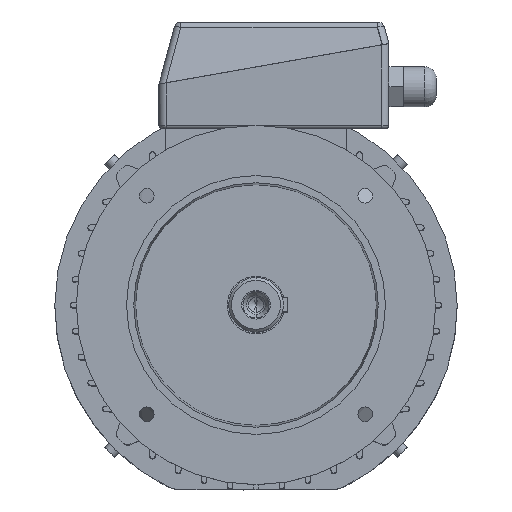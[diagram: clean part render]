
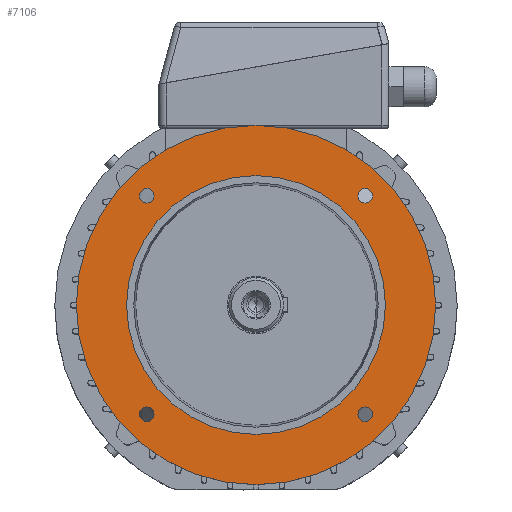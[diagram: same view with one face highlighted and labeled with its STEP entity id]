
A CAD part, top view. The second image highlights one B-rep face of the part: STEP entity #7106.
In plain terms, the highlighted planar face has unit normal (0, 0, 1).
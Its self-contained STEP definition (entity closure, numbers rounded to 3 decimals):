
#19 = EDGE_LOOP ( 'NONE', ( #15220, #14655 ) ) ;
#243 = VERTEX_POINT ( 'NONE', #11239 ) ;
#283 = EDGE_CURVE ( 'NONE', #10924, #10978, #11242, .T. ) ;
#372 = CIRCLE ( 'NONE', #373, 5.1 ) ;
#373 = AXIS2_PLACEMENT_3D ( 'NONE', #374, #375, #376 ) ;
#374 = CARTESIAN_POINT ( 'NONE',  ( 76.014, 76.014, 58. ) ) ;
#375 = DIRECTION ( 'NONE',  ( 0., 0., 1. ) ) ;
#376 = DIRECTION ( 'NONE',  ( 1., 0., 0. ) ) ;
#492 = EDGE_CURVE ( 'NONE', #6730, #243, #11368, .T. ) ;
#629 = CARTESIAN_POINT ( 'NONE',  ( 125., 0., 58. ) ) ;
#658 = ORIENTED_EDGE ( 'NONE', *, *, #283, .F. ) ;
#706 = CIRCLE ( 'NONE', #707, 125. ) ;
#707 = AXIS2_PLACEMENT_3D ( 'NONE', #708, #709, #710 ) ;
#708 = CARTESIAN_POINT ( 'NONE',  ( 0., 0., 58. ) ) ;
#709 = DIRECTION ( 'NONE',  ( 0., 0., 1. ) ) ;
#710 = DIRECTION ( 'NONE',  ( 1., 0., 0. ) ) ;
#808 = CIRCLE ( 'NONE', #809, 125. ) ;
#809 = AXIS2_PLACEMENT_3D ( 'NONE', #810, #811, #812 ) ;
#810 = CARTESIAN_POINT ( 'NONE',  ( 0., 0., 58. ) ) ;
#811 = DIRECTION ( 'NONE',  ( 0., 0., 1. ) ) ;
#812 = DIRECTION ( 'NONE',  ( 1., 0., 0. ) ) ;
#1287 = ORIENTED_EDGE ( 'NONE', *, *, #11033, .F. ) ;
#1850 = EDGE_LOOP ( 'NONE', ( #1287, #658 ) ) ;
#2257 = CARTESIAN_POINT ( 'NONE',  ( -125., 0., 58. ) ) ;
#2478 = CARTESIAN_POINT ( 'NONE',  ( -70.914, -76.014, 58. ) ) ;
#2698 = CIRCLE ( 'NONE', #2699, 5.1 ) ;
#2699 = AXIS2_PLACEMENT_3D ( 'NONE', #2700, #2701, #2702 ) ;
#2700 = CARTESIAN_POINT ( 'NONE',  ( -76.014, -76.014, 58. ) ) ;
#2701 = DIRECTION ( 'NONE',  ( 0., 0., 1. ) ) ;
#2702 = DIRECTION ( 'NONE',  ( 1., 0., 0. ) ) ;
#3687 = CARTESIAN_POINT ( 'NONE',  ( 81.114, -76.014, 58. ) ) ;
#3832 = CIRCLE ( 'NONE', #3833, 5.1 ) ;
#3833 = AXIS2_PLACEMENT_3D ( 'NONE', #3834, #3835, #3839 ) ;
#3834 = CARTESIAN_POINT ( 'NONE',  ( 76.014, -76.014, 58. ) ) ;
#3835 = DIRECTION ( 'NONE',  ( 0., 0., 1. ) ) ;
#3839 = DIRECTION ( 'NONE',  ( 1., 0., 0. ) ) ;
#6004 = VERTEX_POINT ( 'NONE', #14679 ) ;
#6202 = EDGE_CURVE ( 'NONE', #12767, #6004, #14747, .T. ) ;
#6579 = CARTESIAN_POINT ( 'NONE',  ( 70.914, -76.014, 58. ) ) ;
#6730 = VERTEX_POINT ( 'NONE', #14988 ) ;
#6824 = EDGE_LOOP ( 'NONE', ( #14238, #13302 ) ) ;
#7106 = ADVANCED_FACE ( 'NONE', ( #15184, #15185, #15186, #15187, #15188, #15189 ), #15190, .F. ) ;
#7699 = CARTESIAN_POINT ( 'NONE',  ( -90., 0., 58. ) ) ;
#7837 = CARTESIAN_POINT ( 'NONE',  ( 90., 0., 58. ) ) ;
#7896 = CIRCLE ( 'NONE', #7897, 5.1 ) ;
#7897 = AXIS2_PLACEMENT_3D ( 'NONE', #7898, #7899, #7900 ) ;
#7898 = CARTESIAN_POINT ( 'NONE',  ( -76.014, 76.014, 58. ) ) ;
#7899 = DIRECTION ( 'NONE',  ( 0., 0., 1. ) ) ;
#7900 = DIRECTION ( 'NONE',  ( 1., 0., 0. ) ) ;
#7958 = CIRCLE ( 'NONE', #7959, 90. ) ;
#7959 = AXIS2_PLACEMENT_3D ( 'NONE', #7960, #7961, #7962 ) ;
#7960 = CARTESIAN_POINT ( 'NONE',  ( 0., 0., 58. ) ) ;
#7961 = DIRECTION ( 'NONE',  ( 0., 0., 1. ) ) ;
#7962 = DIRECTION ( 'NONE',  ( 1., 0., 0. ) ) ;
#8733 = CARTESIAN_POINT ( 'NONE',  ( -81.114, -76.014, 58. ) ) ;
#8927 = CIRCLE ( 'NONE', #8928, 5.1 ) ;
#8928 = AXIS2_PLACEMENT_3D ( 'NONE', #8929, #8930, #8931 ) ;
#8929 = CARTESIAN_POINT ( 'NONE',  ( 76.014, -76.014, 58. ) ) ;
#8930 = DIRECTION ( 'NONE',  ( 0., 0., 1. ) ) ;
#8931 = DIRECTION ( 'NONE',  ( 1., 0., 0. ) ) ;
#9306 = CARTESIAN_POINT ( 'NONE',  ( -81.114, 76.014, 58. ) ) ;
#9400 = CIRCLE ( 'NONE', #9401, 5.1 ) ;
#9401 = AXIS2_PLACEMENT_3D ( 'NONE', #9402, #9403, #9404 ) ;
#9402 = CARTESIAN_POINT ( 'NONE',  ( -76.014, -76.014, 58. ) ) ;
#9403 = DIRECTION ( 'NONE',  ( 0., 0., 1. ) ) ;
#9404 = DIRECTION ( 'NONE',  ( 1., 0., 0. ) ) ;
#9811 = VERTEX_POINT ( 'NONE', #2478 ) ;
#9863 = EDGE_CURVE ( 'NONE', #11648, #9811, #2698, .T. ) ;
#10146 = VERTEX_POINT ( 'NONE', #3687 ) ;
#10210 = EDGE_CURVE ( 'NONE', #10420, #10146, #3832, .T. ) ;
#10420 = VERTEX_POINT ( 'NONE', #6579 ) ;
#10883 = ORIENTED_EDGE ( 'NONE', *, *, #6202, .F. ) ;
#10924 = VERTEX_POINT ( 'NONE', #7699 ) ;
#10978 = VERTEX_POINT ( 'NONE', #7837 ) ;
#11010 = EDGE_CURVE ( 'NONE', #6004, #12767, #7896, .T. ) ;
#11033 = EDGE_CURVE ( 'NONE', #10978, #10924, #7958, .T. ) ;
#11102 = ORIENTED_EDGE ( 'NONE', *, *, #11010, .F. ) ;
#11239 = CARTESIAN_POINT ( 'NONE',  ( 81.114, 76.014, 58. ) ) ;
#11242 = CIRCLE ( 'NONE', #11243, 90. ) ;
#11243 = AXIS2_PLACEMENT_3D ( 'NONE', #11244, #11249, #11250 ) ;
#11244 = CARTESIAN_POINT ( 'NONE',  ( 0., 0., 58. ) ) ;
#11249 = DIRECTION ( 'NONE',  ( 0., 0., 1. ) ) ;
#11250 = DIRECTION ( 'NONE',  ( 1., 0., 0. ) ) ;
#11368 = CIRCLE ( 'NONE', #11369, 5.1 ) ;
#11369 = AXIS2_PLACEMENT_3D ( 'NONE', #11370, #11375, #11376 ) ;
#11370 = CARTESIAN_POINT ( 'NONE',  ( 76.014, 76.014, 58. ) ) ;
#11375 = DIRECTION ( 'NONE',  ( 0., 0., 1. ) ) ;
#11376 = DIRECTION ( 'NONE',  ( 1., 0., 0. ) ) ;
#11533 = ORIENTED_EDGE ( 'NONE', *, *, #10210, .F. ) ;
#11648 = VERTEX_POINT ( 'NONE', #8733 ) ;
#12052 = EDGE_CURVE ( 'NONE', #10146, #10420, #8927, .T. ) ;
#12149 = EDGE_LOOP ( 'NONE', ( #11102, #10883 ) ) ;
#12413 = ORIENTED_EDGE ( 'NONE', *, *, #9863, .F. ) ;
#12458 = ORIENTED_EDGE ( 'NONE', *, *, #12052, .F. ) ;
#12767 = VERTEX_POINT ( 'NONE', #9306 ) ;
#12983 = EDGE_CURVE ( 'NONE', #9811, #11648, #9400, .T. ) ;
#13032 = EDGE_LOOP ( 'NONE', ( #12458, #11533 ) ) ;
#13302 = ORIENTED_EDGE ( 'NONE', *, *, #492, .F. ) ;
#13407 = ORIENTED_EDGE ( 'NONE', *, *, #12983, .F. ) ;
#13876 = EDGE_CURVE ( 'NONE', #243, #6730, #372, .T. ) ;
#13972 = EDGE_LOOP ( 'NONE', ( #13407, #12413 ) ) ;
#14152 = VERTEX_POINT ( 'NONE', #629 ) ;
#14238 = ORIENTED_EDGE ( 'NONE', *, *, #13876, .F. ) ;
#14239 = EDGE_CURVE ( 'NONE', #15374, #14152, #706, .T. ) ;
#14402 = EDGE_CURVE ( 'NONE', #14152, #15374, #808, .T. ) ;
#14655 = ORIENTED_EDGE ( 'NONE', *, *, #14239, .T. ) ;
#14679 = CARTESIAN_POINT ( 'NONE',  ( -70.914, 76.014, 58. ) ) ;
#14747 = CIRCLE ( 'NONE', #14748, 5.1 ) ;
#14748 = AXIS2_PLACEMENT_3D ( 'NONE', #14749, #14750, #14753 ) ;
#14749 = CARTESIAN_POINT ( 'NONE',  ( -76.014, 76.014, 58. ) ) ;
#14750 = DIRECTION ( 'NONE',  ( 0., 0., 1. ) ) ;
#14753 = DIRECTION ( 'NONE',  ( 1., 0., 0. ) ) ;
#14988 = CARTESIAN_POINT ( 'NONE',  ( 70.914, 76.014, 58. ) ) ;
#15184 = FACE_BOUND ( 'NONE', #6824, .T. ) ;
#15185 = FACE_BOUND ( 'NONE', #13032, .T. ) ;
#15186 = FACE_BOUND ( 'NONE', #1850, .T. ) ;
#15187 = FACE_OUTER_BOUND ( 'NONE', #19, .T. ) ;
#15188 = FACE_BOUND ( 'NONE', #13972, .T. ) ;
#15189 = FACE_BOUND ( 'NONE', #12149, .T. ) ;
#15190 = PLANE ( 'NONE',  #15191 ) ;
#15191 = AXIS2_PLACEMENT_3D ( 'NONE', #15192, #15193, #15194 ) ;
#15192 = CARTESIAN_POINT ( 'NONE',  ( 0., 125., 58. ) ) ;
#15193 = DIRECTION ( 'NONE',  ( 0., 0., -1. ) ) ;
#15194 = DIRECTION ( 'NONE',  ( -1., 0., 0. ) ) ;
#15220 = ORIENTED_EDGE ( 'NONE', *, *, #14402, .T. ) ;
#15374 = VERTEX_POINT ( 'NONE', #2257 ) ;
